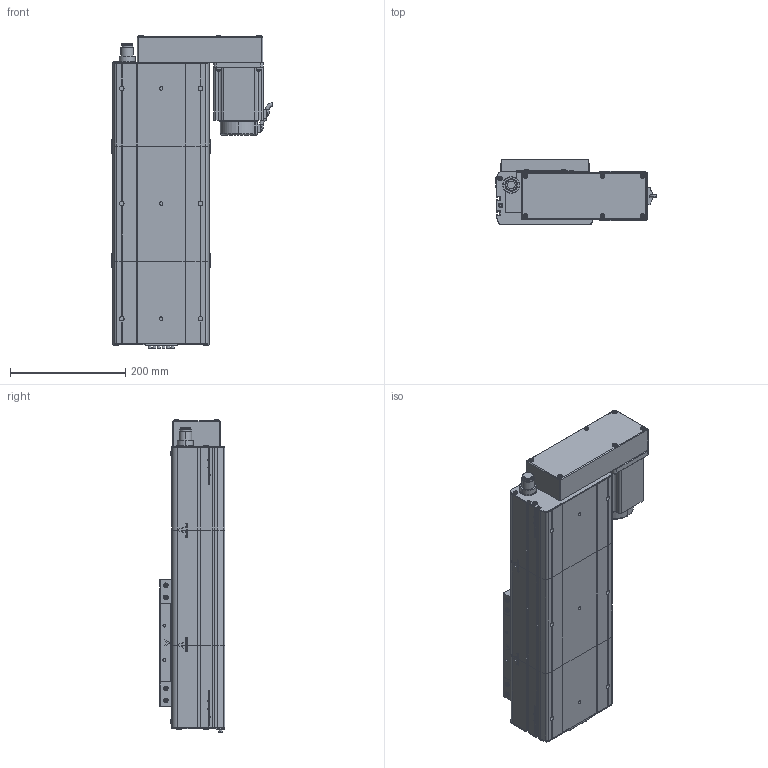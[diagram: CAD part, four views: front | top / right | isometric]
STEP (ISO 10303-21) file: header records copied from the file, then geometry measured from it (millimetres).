
FILE_DESCRIPTION (( 'STEP AP214' ), '1' );
FILE_NAME ('D17 CSH BL S200.STEP', '2010-06-29T13:47:49', ( 'Christophe Gaillard' ), ( 'SGA' ), 'SwSTEP 2.0', 'SolidWorks 2010', '' );
FILE_SCHEMA (( 'AUTOMOTIVE_DESIGN' ));
Length unit declared in the file: millimetre
Products named in the file (29): ecrou_Default; Chariot D17_Default; couvercle D17-200_Default; support chariot D17_Default; couvercle D17_Default; Plaque de bout D17_Default; plaque de serrage D17_Default; Tail D17_Default; Corp L200_Default; Corp Tail D17_Default; Corp D17 S200_Default; chariot D17_Default; glissiere_Default; vis M5 L15_Default; D17 CSH BL S200; Head D17 BL_Default; Corp Head  D17 BL_Default; avant 90BLDC100A-640; Plaque de bout D17 head BL_Default; vis M5 L47_Default; plaque de serrage D17 head BL_Default; vis M5 L60_Default; codeur 90BLDC100-640; corps 90BLDC100A-640; Conecteur2_Default; Conecteur_Default; Moteur motionking 90BLDC100A-640; couvercle D17 head BL_Default; Support Moteur BL_Default
Assembly tree (52 placements, depth 4):
  D17 CSH BL S200
    Corp D17 S200_Default
      couvercle D17-200_Default
      Corp L200_Default
    Tail D17_Default
      vis M5 L15_Default  x6
      Plaque de bout D17_Default
      Corp Tail D17_Default
      couvercle D17_Default
      plaque de serrage D17_Default
    Head D17 BL_Default
      vis M5 L60_Default  x4
      ecrou_Default  x4
      Moteur motionking 90BLDC100A-640
        corps 90BLDC100A-640
        Conecteur2_Default
        avant 90BLDC100A-640
        Conecteur_Default
        codeur 90BLDC100-640
      vis M5 L47_Default  x2
      Support Moteur BL_Default
      Plaque de bout D17 head BL_Default
      couvercle D17 head BL_Default
      Corp Head  D17 BL_Default
      vis M5 L15_Default  x4
      plaque de serrage D17 head BL_Default
    Chariot D17_Default
      vis M5 L15_Default  x8
      support chariot D17_Default
      chariot D17_Default
      glissiere_Default
Bounding box: 279.16 x 114 x 544.2 mm (x, y, z)
Volume: 4940878.4 mm3; surface area: 924118.1 mm2
Topology: 89 solids, 89 shells, 3135 faces, 7882 edges, 5138 vertices
Faces by surface type: plane 1860, bspline 758, cylinder 398, torus 67, cone 48, sphere 4
Entity records: 147474 total; most frequent: CARTESIAN_POINT 80769, ORIENTED_EDGE 13304, DIRECTION 9564, EDGE_CURVE 6652, VECTOR 4530, LINE 4530, VERTEX_POINT 4406, EDGE_LOOP 2830
